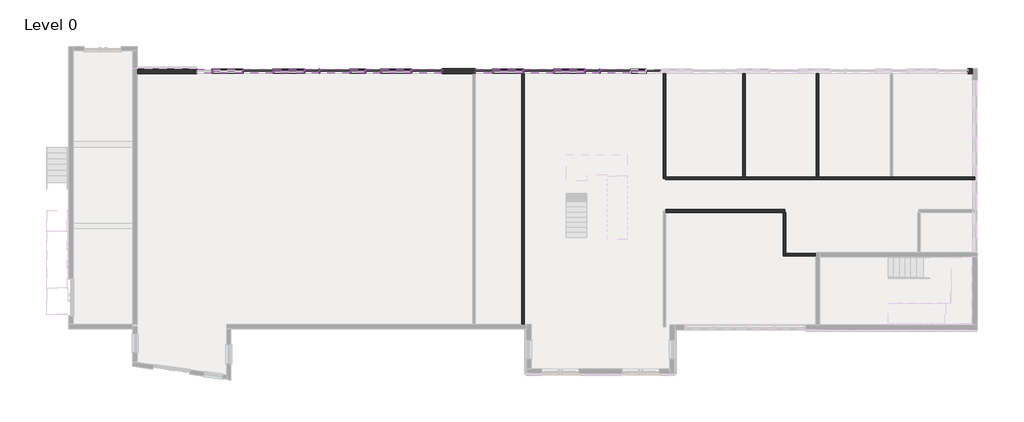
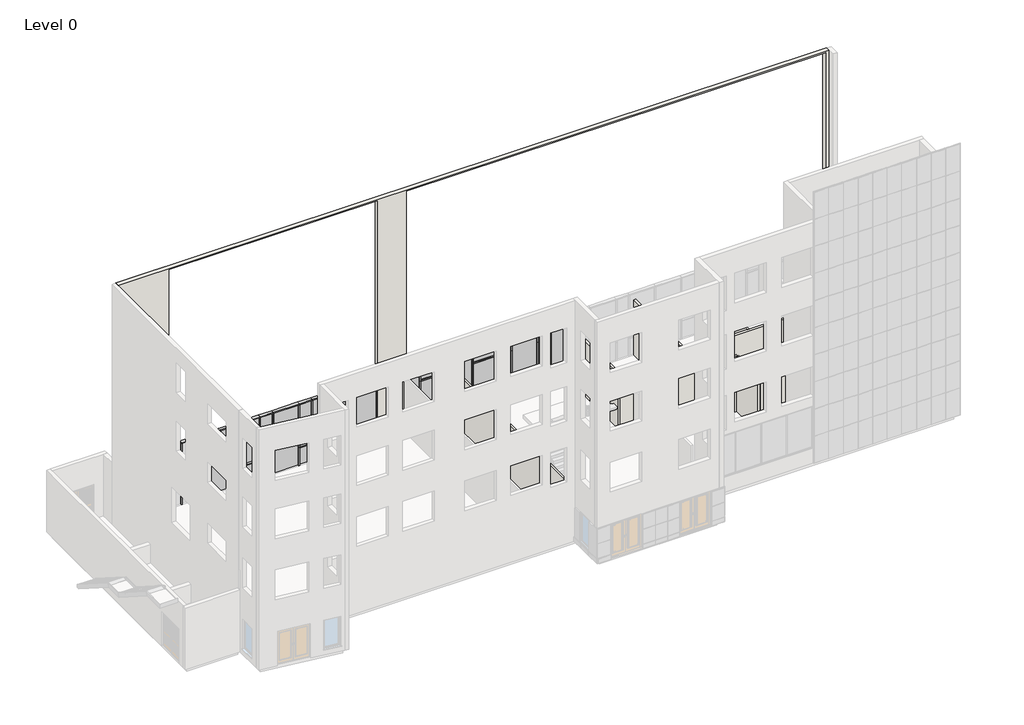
# One storey, part 6 of 10: 81 members, 29 plates, 9 walls.
"""IFC4 building model written with IfcOpenShell, lengths in millimetres."""

from ifc_helpers import new_model, si_unit, origin, origin_with_axes, place, context, project, spatial, polyline, outline, extrude, faceted_brep, transform, mapped, element, save
from components import rectangular_mullion_50x180mm_27940352, rectangular_mullion_50x180mm_f781141c, rectangular_mullion_50x180mm_fd91253e, rectangular_mullion_50x180mm_cfc9efda, rectangular_mullion_50x180mm_c30fec06, rectangular_mullion_50x180mm_55b63a96, rectangular_mullion_50x180mm_95299f7d, rectangular_mullion_50x180mm_7153291d, rectangular_mullion_50x180mm_44ee472d, rectangular_mullion_50x180mm_f19e9633, rectangular_mullion_50x180mm_b6846536, system_panel_black_panel_9e4711d2, system_panel_black_panel_f1dc39a6, system_panel_dark_grey_panel_d75652f0, system_panel_dark_grey_panel_1d6e0621, system_panel_glazed_dd63f223, system_panel_glazed_4915e1a0, system_panel_white_panel_6a64f577, system_panel_white_panel_a9ca731a, system_panel_white_panel_6c6c8c82, system_panel_white_panel_ff540c20

model = new_model("IFC4")

# Units and contexts
model_context = context("Model", 3, world=origin())
ifc_project = project(units=[si_unit("LENGTHUNIT", "METRE", prefix="MILLI")], contexts=[model_context])

# Site, building, storey
site = spatial("IfcSite", under=ifc_project)
building = spatial("IfcBuilding", under=site)
storey = spatial("IfcBuildingStorey", under=building, Name="Level 0", Elevation=0.0)

# Members
placement = place(None, origin())
rectangular_mullion_50x180mm_shape = rectangular_mullion_50x180mm_27940352(model_context)
element("IfcMember", 1, ObjectType="Rectangular Mullion : 50x180mm", at=placement, inside=storey, context=model_context, shape_type="MappedRepresentation", body=[
    mapped(rectangular_mullion_50x180mm_shape, transform((23443.2942367, 9132.4946591, 0.0), x_axis=(1.0, 0.0, 0.0), y_axis=(0.0, -1.0, 0.0), z_axis=(0.0, 0.0, -1.0))),
])
element("IfcMember", 2, ObjectType="Rectangular Mullion : 50x180mm", at=placement, inside=storey, context=model_context, shape_type="MappedRepresentation", body=[
    mapped(rectangular_mullion_50x180mm_shape, transform((22693.2942367, 9132.4946591, 0.0), x_axis=(1.0, 0.0, 0.0), y_axis=(0.0, -1.0, 0.0), z_axis=(0.0, 0.0, -1.0))),
])
element("IfcMember", 3, ObjectType="Rectangular Mullion : 50x180mm", at=placement, inside=storey, context=model_context, shape_type="MappedRepresentation", body=[
    mapped(rectangular_mullion_50x180mm_shape, transform((20443.2942367, 9132.4946591, 0.0), x_axis=(1.0, 0.0, 0.0), y_axis=(0.0, -1.0, 0.0), z_axis=(0.0, 0.0, -1.0))),
])
element("IfcMember", 4, ObjectType="Rectangular Mullion : 50x180mm", at=placement, inside=storey, context=model_context, shape_type="MappedRepresentation", body=[
    mapped(rectangular_mullion_50x180mm_shape, transform((18943.2942367, 9132.4946591, 0.0), x_axis=(1.0, 0.0, 0.0), y_axis=(0.0, -1.0, 0.0), z_axis=(0.0, 0.0, -1.0))),
])
element("IfcMember", 5, ObjectType="Rectangular Mullion : 50x180mm", at=placement, inside=storey, context=model_context, shape_type="MappedRepresentation", body=[
    mapped(rectangular_mullion_50x180mm_shape, transform((15943.2942367, 9132.4946591, 0.0), x_axis=(1.0, 0.0, 0.0), y_axis=(0.0, -1.0, 0.0), z_axis=(0.0, 0.0, -1.0))),
])
element("IfcMember", 6, ObjectType="Rectangular Mullion : 50x180mm", at=placement, inside=storey, context=model_context, shape_type="MappedRepresentation", body=[
    mapped(rectangular_mullion_50x180mm_shape, transform((17443.2942367, 9132.4946591, 0.0), x_axis=(1.0, 0.0, 0.0), y_axis=(0.0, -1.0, 0.0), z_axis=(0.0, 0.0, -1.0))),
])
element("IfcMember", 7, ObjectType="Rectangular Mullion : 50x180mm", at=placement, inside=storey, context=model_context, shape_type="MappedRepresentation", body=[
    mapped(rectangular_mullion_50x180mm_shape, transform((11980.7942367, 9132.4946591, 0.0), x_axis=(1.0, 0.0, 0.0), y_axis=(0.0, -1.0, 0.0), z_axis=(0.0, 0.0, -1.0))),
])
element("IfcMember", 8, ObjectType="Rectangular Mullion : 50x180mm", at=placement, inside=storey, context=model_context, shape_type="MappedRepresentation", body=[
    mapped(rectangular_mullion_50x180mm_shape, transform((10480.7942367, 9132.4946591, 0.0), x_axis=(1.0, 0.0, 0.0), y_axis=(0.0, -1.0, 0.0), z_axis=(0.0, 0.0, -1.0))),
])
element("IfcMember", 9, ObjectType="Rectangular Mullion : 50x180mm", at=placement, inside=storey, context=model_context, shape_type="MappedRepresentation", body=[
    mapped(rectangular_mullion_50x180mm_shape, transform((9730.7942367, 9132.4946591, 0.0), x_axis=(1.0, 0.0, 0.0), y_axis=(0.0, -1.0, 0.0), z_axis=(0.0, 0.0, -1.0))),
])
element("IfcMember", 10, ObjectType="Rectangular Mullion : 50x180mm", at=placement, inside=storey, context=model_context, shape_type="MappedRepresentation", body=[
    mapped(rectangular_mullion_50x180mm_shape, transform((8980.7942367, 9132.4946591, 0.0), x_axis=(1.0, 0.0, 0.0), y_axis=(0.0, -1.0, 0.0), z_axis=(0.0, 0.0, -1.0))),
])
element("IfcMember", 11, ObjectType="Rectangular Mullion : 50x180mm", at=placement, inside=storey, context=model_context, shape_type="MappedRepresentation", body=[
    mapped(rectangular_mullion_50x180mm_shape, transform((6730.7942367, 9132.4946591, 0.0), x_axis=(1.0, 0.0, 0.0), y_axis=(0.0, -1.0, 0.0), z_axis=(0.0, 0.0, -1.0))),
])
element("IfcMember", 12, ObjectType="Rectangular Mullion : 50x180mm", at=placement, inside=storey, context=model_context, shape_type="MappedRepresentation", body=[
    mapped(rectangular_mullion_50x180mm_shape, transform((5230.7942367, 9132.4946591, 0.0), x_axis=(1.0, 0.0, 0.0), y_axis=(0.0, -1.0, 0.0), z_axis=(0.0, 0.0, -1.0))),
])
element("IfcMember", 13, ObjectType="Rectangular Mullion : 50x180mm", at=placement, inside=storey, context=model_context, shape_type="MappedRepresentation", body=[
    mapped(rectangular_mullion_50x180mm_shape, transform((2230.7942367, 9132.4946591, 0.0), x_axis=(1.0, 0.0, 0.0), y_axis=(0.0, -1.0, 0.0), z_axis=(0.0, 0.0, -1.0))),
])
element("IfcMember", 14, ObjectType="Rectangular Mullion : 50x180mm", at=placement, inside=storey, context=model_context, shape_type="MappedRepresentation", body=[
    mapped(rectangular_mullion_50x180mm_shape, transform((3730.7942367, 9132.4946591, 0.0), x_axis=(1.0, 0.0, 0.0), y_axis=(0.0, -1.0, 0.0), z_axis=(0.0, 0.0, -1.0))),
])
element("IfcMember", 15, ObjectType="Rectangular Mullion : 50x180mm", at=placement, inside=storey, context=model_context, shape_type="MappedRepresentation", body=[
    mapped(rectangular_mullion_50x180mm_shape, transform((21193.2942367, 9132.4946591, 0.0), x_axis=(1.0, 0.0, 0.0), y_axis=(0.0, -1.0, 0.0), z_axis=(0.0, 0.0, -1.0))),
])
element("IfcMember", 16, ObjectType="Rectangular Mullion : 50x180mm", at=placement, inside=storey, context=model_context, shape_type="MappedRepresentation", body=[
    mapped(rectangular_mullion_50x180mm_shape, transform((7480.7942367, 9132.4946591, 0.0), x_axis=(1.0, 0.0, 0.0), y_axis=(0.0, -1.0, 0.0), z_axis=(0.0, 0.0, -1.0))),
])
rectangular_mullion_50x180mm_2_shape = rectangular_mullion_50x180mm_f781141c(model_context)
element("IfcMember", 17, ObjectType="Rectangular Mullion : 50x180mm", at=placement, inside=storey, context=model_context, shape_type="MappedRepresentation", body=[
    mapped(rectangular_mullion_50x180mm_2_shape, transform((15943.2942367, 9132.4946591, 1100.0), x_axis=(1.0, 0.0, 0.0), y_axis=(0.0, -1.0, 0.0), z_axis=(0.0, 0.0, -1.0))),
])
element("IfcMember", 18, ObjectType="Rectangular Mullion : 50x180mm", at=placement, inside=storey, context=model_context, shape_type="MappedRepresentation", body=[
    mapped(rectangular_mullion_50x180mm_2_shape, transform((17443.2942367, 9132.4946591, 1100.0), x_axis=(1.0, 0.0, 0.0), y_axis=(0.0, -1.0, 0.0), z_axis=(0.0, 0.0, -1.0))),
])
element("IfcMember", 19, ObjectType="Rectangular Mullion : 50x180mm", at=placement, inside=storey, context=model_context, shape_type="MappedRepresentation", body=[
    mapped(rectangular_mullion_50x180mm_2_shape, transform((18943.2942367, 9132.4946591, 1100.0), x_axis=(1.0, 0.0, 0.0), y_axis=(0.0, -1.0, 0.0), z_axis=(0.0, 0.0, -1.0))),
])
element("IfcMember", 20, ObjectType="Rectangular Mullion : 50x180mm", at=placement, inside=storey, context=model_context, shape_type="MappedRepresentation", body=[
    mapped(rectangular_mullion_50x180mm_2_shape, transform((20443.2942367, 9132.4946591, 1100.0), x_axis=(1.0, 0.0, 0.0), y_axis=(0.0, -1.0, 0.0), z_axis=(0.0, 0.0, -1.0))),
])
element("IfcMember", 21, ObjectType="Rectangular Mullion : 50x180mm", at=placement, inside=storey, context=model_context, shape_type="MappedRepresentation", body=[
    mapped(rectangular_mullion_50x180mm_2_shape, transform((22693.2942367, 9132.4946591, 1100.0), x_axis=(1.0, 0.0, 0.0), y_axis=(0.0, -1.0, 0.0), z_axis=(0.0, 0.0, -1.0))),
])
element("IfcMember", 22, ObjectType="Rectangular Mullion : 50x180mm", at=placement, inside=storey, context=model_context, shape_type="MappedRepresentation", body=[
    mapped(rectangular_mullion_50x180mm_2_shape, transform((23443.2942367, 9132.4946591, 1100.0), x_axis=(1.0, 0.0, 0.0), y_axis=(0.0, -1.0, 0.0), z_axis=(0.0, 0.0, -1.0))),
])
element("IfcMember", 23, ObjectType="Rectangular Mullion : 50x180mm", at=placement, inside=storey, context=model_context, shape_type="MappedRepresentation", body=[
    mapped(rectangular_mullion_50x180mm_2_shape, transform((2230.7942367, 9132.4946591, 1100.0), x_axis=(1.0, 0.0, 0.0), y_axis=(0.0, -1.0, 0.0), z_axis=(0.0, 0.0, -1.0))),
])
element("IfcMember", 24, ObjectType="Rectangular Mullion : 50x180mm", at=placement, inside=storey, context=model_context, shape_type="MappedRepresentation", body=[
    mapped(rectangular_mullion_50x180mm_2_shape, transform((3730.7942367, 9132.4946591, 1100.0), x_axis=(1.0, 0.0, 0.0), y_axis=(0.0, -1.0, 0.0), z_axis=(0.0, 0.0, -1.0))),
])
element("IfcMember", 25, ObjectType="Rectangular Mullion : 50x180mm", at=placement, inside=storey, context=model_context, shape_type="MappedRepresentation", body=[
    mapped(rectangular_mullion_50x180mm_2_shape, transform((5230.7942367, 9132.4946591, 1100.0), x_axis=(1.0, 0.0, 0.0), y_axis=(0.0, -1.0, 0.0), z_axis=(0.0, 0.0, -1.0))),
])
element("IfcMember", 26, ObjectType="Rectangular Mullion : 50x180mm", at=placement, inside=storey, context=model_context, shape_type="MappedRepresentation", body=[
    mapped(rectangular_mullion_50x180mm_2_shape, transform((6730.7942367, 9132.4946591, 1100.0), x_axis=(1.0, 0.0, 0.0), y_axis=(0.0, -1.0, 0.0), z_axis=(0.0, 0.0, -1.0))),
])
element("IfcMember", 27, ObjectType="Rectangular Mullion : 50x180mm", at=placement, inside=storey, context=model_context, shape_type="MappedRepresentation", body=[
    mapped(rectangular_mullion_50x180mm_2_shape, transform((8980.7942367, 9132.4946591, 1100.0), x_axis=(1.0, 0.0, 0.0), y_axis=(0.0, -1.0, 0.0), z_axis=(0.0, 0.0, -1.0))),
])
element("IfcMember", 28, ObjectType="Rectangular Mullion : 50x180mm", at=placement, inside=storey, context=model_context, shape_type="MappedRepresentation", body=[
    mapped(rectangular_mullion_50x180mm_2_shape, transform((9730.7942367, 9132.4946591, 1100.0), x_axis=(1.0, 0.0, 0.0), y_axis=(0.0, -1.0, 0.0), z_axis=(0.0, 0.0, -1.0))),
])
element("IfcMember", 29, ObjectType="Rectangular Mullion : 50x180mm", at=placement, inside=storey, context=model_context, shape_type="MappedRepresentation", body=[
    mapped(rectangular_mullion_50x180mm_2_shape, transform((10480.7942367, 9132.4946591, 1100.0), x_axis=(1.0, 0.0, 0.0), y_axis=(0.0, -1.0, 0.0), z_axis=(0.0, 0.0, -1.0))),
])
element("IfcMember", 30, ObjectType="Rectangular Mullion : 50x180mm", at=placement, inside=storey, context=model_context, shape_type="MappedRepresentation", body=[
    mapped(rectangular_mullion_50x180mm_2_shape, transform((11980.7942367, 9132.4946591, 1100.0), x_axis=(1.0, 0.0, 0.0), y_axis=(0.0, -1.0, 0.0), z_axis=(0.0, 0.0, -1.0))),
])
element("IfcMember", 31, ObjectType="Rectangular Mullion : 50x180mm", at=placement, inside=storey, context=model_context, shape_type="MappedRepresentation", body=[
    mapped(rectangular_mullion_50x180mm_2_shape, transform((21193.2942367, 9132.4946591, 1100.0), x_axis=(1.0, 0.0, 0.0), y_axis=(0.0, -1.0, 0.0), z_axis=(0.0, 0.0, -1.0))),
])
element("IfcMember", 32, ObjectType="Rectangular Mullion : 50x180mm", at=placement, inside=storey, context=model_context, shape_type="MappedRepresentation", body=[
    mapped(rectangular_mullion_50x180mm_2_shape, transform((7480.7942367, 9132.4946591, 1100.0), x_axis=(1.0, 0.0, 0.0), y_axis=(0.0, -1.0, 0.0), z_axis=(0.0, 0.0, -1.0))),
])
rectangular_mullion_50x180mm_3_shape = rectangular_mullion_50x180mm_fd91253e(model_context)
element("IfcMember", 33, ObjectType="Rectangular Mullion : 50x180mm", at=placement, inside=storey, context=model_context, shape_type="MappedRepresentation", body=[
    mapped(rectangular_mullion_50x180mm_3_shape, transform((17418.2942367, 9132.4946591, 1100.0), x_axis=(0.0, 0.0, 1.0), y_axis=(0.0, -1.0, 0.0), z_axis=(1.0, 0.0, 0.0))),
])
element("IfcMember", 34, ObjectType="Rectangular Mullion : 50x180mm", at=placement, inside=storey, context=model_context, shape_type="MappedRepresentation", body=[
    mapped(rectangular_mullion_50x180mm_3_shape, transform((20418.2942367, 9132.4946591, 1100.0), x_axis=(0.0, 0.0, 1.0), y_axis=(0.0, -1.0, 0.0), z_axis=(1.0, 0.0, 0.0))),
])
element("IfcMember", 35, ObjectType="Rectangular Mullion : 50x180mm", at=placement, inside=storey, context=model_context, shape_type="MappedRepresentation", body=[
    mapped(rectangular_mullion_50x180mm_3_shape, transform((17418.2942367, 9132.4946591, 2700.0), x_axis=(0.0, 0.0, 1.0), y_axis=(0.0, -1.0, 0.0), z_axis=(1.0, 0.0, 0.0))),
])
element("IfcMember", 36, ObjectType="Rectangular Mullion : 50x180mm", at=placement, inside=storey, context=model_context, shape_type="MappedRepresentation", body=[
    mapped(rectangular_mullion_50x180mm_3_shape, transform((20418.2942367, 9132.4946591, 2700.0), x_axis=(0.0, 0.0, 1.0), y_axis=(0.0, -1.0, 0.0), z_axis=(1.0, 0.0, 0.0))),
])
element("IfcMember", 37, ObjectType="Rectangular Mullion : 50x180mm", at=placement, inside=storey, context=model_context, shape_type="MappedRepresentation", body=[
    mapped(rectangular_mullion_50x180mm_3_shape, transform((11955.7942367, 9132.4946591, 1100.0), x_axis=(0.0, 0.0, 1.0), y_axis=(0.0, -1.0, 0.0), z_axis=(1.0, 0.0, 0.0))),
])
element("IfcMember", 38, ObjectType="Rectangular Mullion : 50x180mm", at=placement, inside=storey, context=model_context, shape_type="MappedRepresentation", body=[
    mapped(rectangular_mullion_50x180mm_3_shape, transform((11955.7942367, 9132.4946591, 2700.0), x_axis=(0.0, 0.0, 1.0), y_axis=(0.0, -1.0, 0.0), z_axis=(1.0, 0.0, 0.0))),
])
element("IfcMember", 39, ObjectType="Rectangular Mullion : 50x180mm", at=placement, inside=storey, context=model_context, shape_type="MappedRepresentation", body=[
    mapped(rectangular_mullion_50x180mm_3_shape, transform((3705.7942367, 9132.4946591, 1100.0), x_axis=(0.0, 0.0, 1.0), y_axis=(0.0, -1.0, 0.0), z_axis=(1.0, 0.0, 0.0))),
])
element("IfcMember", 40, ObjectType="Rectangular Mullion : 50x180mm", at=placement, inside=storey, context=model_context, shape_type="MappedRepresentation", body=[
    mapped(rectangular_mullion_50x180mm_3_shape, transform((6705.7942367, 9132.4946591, 1100.0), x_axis=(0.0, 0.0, 1.0), y_axis=(0.0, -1.0, 0.0), z_axis=(1.0, 0.0, 0.0))),
])
element("IfcMember", 41, ObjectType="Rectangular Mullion : 50x180mm", at=placement, inside=storey, context=model_context, shape_type="MappedRepresentation", body=[
    mapped(rectangular_mullion_50x180mm_3_shape, transform((3705.7942367, 9132.4946591, 2700.0), x_axis=(0.0, 0.0, 1.0), y_axis=(0.0, -1.0, 0.0), z_axis=(1.0, 0.0, 0.0))),
])
element("IfcMember", 42, ObjectType="Rectangular Mullion : 50x180mm", at=placement, inside=storey, context=model_context, shape_type="MappedRepresentation", body=[
    mapped(rectangular_mullion_50x180mm_3_shape, transform((6705.7942367, 9132.4946591, 2700.0), x_axis=(0.0, 0.0, 1.0), y_axis=(0.0, -1.0, 0.0), z_axis=(1.0, 0.0, 0.0))),
])
rectangular_mullion_50x180mm_4_shape = rectangular_mullion_50x180mm_cfc9efda(model_context)
element("IfcMember", 43, ObjectType="Rectangular Mullion : 50x180mm", at=placement, inside=storey, context=model_context, shape_type="MappedRepresentation", body=[
    mapped(rectangular_mullion_50x180mm_4_shape, transform((23418.2942367, 9132.4946591, 2700.0), x_axis=(0.0, 0.0, 1.0), y_axis=(0.0, -1.0, 0.0), z_axis=(1.0, 0.0, 0.0))),
])
element("IfcMember", 44, ObjectType="Rectangular Mullion : 50x180mm", at=placement, inside=storey, context=model_context, shape_type="MappedRepresentation", body=[
    mapped(rectangular_mullion_50x180mm_4_shape, transform((23418.2942367, 9132.4946591, 1100.0), x_axis=(0.0, 0.0, 1.0), y_axis=(0.0, -1.0, 0.0), z_axis=(1.0, 0.0, 0.0))),
])
element("IfcMember", 45, ObjectType="Rectangular Mullion : 50x180mm", at=placement, inside=storey, context=model_context, shape_type="MappedRepresentation", body=[
    mapped(rectangular_mullion_50x180mm_4_shape, transform((9705.7942367, 9132.4946591, 2700.0), x_axis=(0.0, 0.0, 1.0), y_axis=(0.0, -1.0, 0.0), z_axis=(1.0, 0.0, 0.0))),
])
element("IfcMember", 46, ObjectType="Rectangular Mullion : 50x180mm", at=placement, inside=storey, context=model_context, shape_type="MappedRepresentation", body=[
    mapped(rectangular_mullion_50x180mm_4_shape, transform((9705.7942367, 9132.4946591, 1100.0), x_axis=(0.0, 0.0, 1.0), y_axis=(0.0, -1.0, 0.0), z_axis=(1.0, 0.0, 0.0))),
])
rectangular_mullion_50x180mm_5_shape = rectangular_mullion_50x180mm_c30fec06(model_context)
element("IfcMember", 47, ObjectType="Rectangular Mullion : 50x180mm", at=placement, inside=storey, context=model_context, shape_type="MappedRepresentation", body=[
    mapped(rectangular_mullion_50x180mm_5_shape, transform((17443.2942367, 9132.4946591, 3750.0), x_axis=(0.0, 0.0, 1.0), y_axis=(0.0, -1.0, 0.0), z_axis=(1.0, 0.0, 0.0))),
])
element("IfcMember", 48, ObjectType="Rectangular Mullion : 50x180mm", at=placement, inside=storey, context=model_context, shape_type="MappedRepresentation", body=[
    mapped(rectangular_mullion_50x180mm_5_shape, transform((18943.2942367, 9132.4946591, 3750.0), x_axis=(0.0, 0.0, 1.0), y_axis=(0.0, -1.0, 0.0), z_axis=(1.0, 0.0, 0.0))),
])
element("IfcMember", 49, ObjectType="Rectangular Mullion : 50x180mm", at=placement, inside=storey, context=model_context, shape_type="MappedRepresentation", body=[
    mapped(rectangular_mullion_50x180mm_5_shape, transform((20443.2942367, 9132.4946591, 3750.0), x_axis=(0.0, 0.0, 1.0), y_axis=(0.0, -1.0, 0.0), z_axis=(1.0, 0.0, 0.0))),
])
element("IfcMember", 50, ObjectType="Rectangular Mullion : 50x180mm", at=placement, inside=storey, context=model_context, shape_type="MappedRepresentation", body=[
    mapped(rectangular_mullion_50x180mm_5_shape, transform((22693.2942367, 9132.4946591, 3750.0), x_axis=(0.0, 0.0, 1.0), y_axis=(0.0, -1.0, 0.0), z_axis=(1.0, 0.0, 0.0))),
])
element("IfcMember", 51, ObjectType="Rectangular Mullion : 50x180mm", at=placement, inside=storey, context=model_context, shape_type="MappedRepresentation", body=[
    mapped(rectangular_mullion_50x180mm_5_shape, transform((3730.7942367, 9132.4946591, 3750.0), x_axis=(0.0, 0.0, 1.0), y_axis=(0.0, -1.0, 0.0), z_axis=(1.0, 0.0, 0.0))),
])
element("IfcMember", 52, ObjectType="Rectangular Mullion : 50x180mm", at=placement, inside=storey, context=model_context, shape_type="MappedRepresentation", body=[
    mapped(rectangular_mullion_50x180mm_5_shape, transform((5230.7942367, 9132.4946591, 3750.0), x_axis=(0.0, 0.0, 1.0), y_axis=(0.0, -1.0, 0.0), z_axis=(1.0, 0.0, 0.0))),
])
element("IfcMember", 53, ObjectType="Rectangular Mullion : 50x180mm", at=placement, inside=storey, context=model_context, shape_type="MappedRepresentation", body=[
    mapped(rectangular_mullion_50x180mm_5_shape, transform((6730.7942367, 9132.4946591, 3750.0), x_axis=(0.0, 0.0, 1.0), y_axis=(0.0, -1.0, 0.0), z_axis=(1.0, 0.0, 0.0))),
])
element("IfcMember", 54, ObjectType="Rectangular Mullion : 50x180mm", at=placement, inside=storey, context=model_context, shape_type="MappedRepresentation", body=[
    mapped(rectangular_mullion_50x180mm_5_shape, transform((8980.7942367, 9132.4946591, 3750.0), x_axis=(0.0, 0.0, 1.0), y_axis=(0.0, -1.0, 0.0), z_axis=(1.0, 0.0, 0.0))),
])
element("IfcMember", 55, ObjectType="Rectangular Mullion : 50x180mm", at=placement, inside=storey, context=model_context, shape_type="MappedRepresentation", body=[
    mapped(rectangular_mullion_50x180mm_5_shape, transform((11980.7942367, 9132.4946591, 3750.0), x_axis=(0.0, 0.0, 1.0), y_axis=(0.0, -1.0, 0.0), z_axis=(1.0, 0.0, 0.0))),
])
rectangular_mullion_50x180mm_6_shape = rectangular_mullion_50x180mm_55b63a96(model_context)
element("IfcMember", 56, ObjectType="Rectangular Mullion : 50x180mm", at=placement, inside=storey, context=model_context, shape_type="MappedRepresentation", body=[
    mapped(rectangular_mullion_50x180mm_6_shape, transform((21193.2942367, 9132.4946591, 3750.0), x_axis=(0.0, 0.0, 1.0), y_axis=(0.0, -1.0, 0.0), z_axis=(1.0, 0.0, 0.0))),
])
element("IfcMember", 57, ObjectType="Rectangular Mullion : 50x180mm", at=placement, inside=storey, context=model_context, shape_type="MappedRepresentation", body=[
    mapped(rectangular_mullion_50x180mm_6_shape, transform((7480.7942367, 9132.4946591, 3750.0), x_axis=(0.0, 0.0, 1.0), y_axis=(0.0, -1.0, 0.0), z_axis=(1.0, 0.0, 0.0))),
])
element("IfcMember", 58, ObjectType="Rectangular Mullion : 50x180mm", at=placement, inside=storey, context=model_context, shape_type="MappedRepresentation", body=[
    mapped(rectangular_mullion_50x180mm_6_shape, transform((9730.7942367, 9132.4946591, 3750.0), x_axis=(0.0, 0.0, 1.0), y_axis=(0.0, -1.0, 0.0), z_axis=(1.0, 0.0, 0.0))),
])
element("IfcMember", 59, ObjectType="Rectangular Mullion : 50x180mm", at=placement, inside=storey, context=model_context, shape_type="MappedRepresentation", body=[
    mapped(rectangular_mullion_50x180mm_6_shape, transform((10480.7942367, 9132.4946591, 3750.0), x_axis=(0.0, 0.0, 1.0), y_axis=(0.0, -1.0, 0.0), z_axis=(1.0, 0.0, 0.0))),
])
element("IfcMember", 60, ObjectType="Rectangular Mullion : 50x180mm", at=placement, inside=storey, context=model_context, shape_type="MappedRepresentation", body=[
    mapped(rectangular_mullion_50x180mm_5_shape, transform((13480.7942367, 9132.4946591, 3750.0), x_axis=(0.0, 0.0, 1.0), y_axis=(0.0, -1.0, 0.0), z_axis=(1.0, 0.0, 0.0))),
])
rectangular_mullion_50x180mm_7_shape = rectangular_mullion_50x180mm_95299f7d(model_context)
element("IfcMember", 61, ObjectType="Rectangular Mullion : 50x180mm", at=placement, inside=storey, context=model_context, shape_type="MappedRepresentation", body=[
    mapped(rectangular_mullion_50x180mm_7_shape, transform((13480.7942367, 9132.4946591, 1100.0), x_axis=(1.0, 0.0, 0.0), y_axis=(0.0, -1.0, 0.0), z_axis=(0.0, 0.0, -1.0))),
])
rectangular_mullion_50x180mm_8_shape = rectangular_mullion_50x180mm_7153291d(model_context)
element("IfcMember", 62, ObjectType="Rectangular Mullion : 50x180mm", at=placement, inside=storey, context=model_context, shape_type="MappedRepresentation", body=[
    mapped(rectangular_mullion_50x180mm_8_shape, transform((13480.7942367, 9132.4946591, 0.0), x_axis=(1.0, 0.0, 0.0), y_axis=(0.0, -1.0, 0.0), z_axis=(0.0, 0.0, -1.0))),
])
rectangular_mullion_50x180mm_9_shape = rectangular_mullion_50x180mm_44ee472d(model_context)
element("IfcMember", 63, ObjectType="Rectangular Mullion : 50x180mm", at=placement, inside=storey, context=model_context, shape_type="MappedRepresentation", body=[
    mapped(rectangular_mullion_50x180mm_9_shape, transform((15943.2942367, 9132.4946591, 3750.0), x_axis=(0.0, 0.0, 1.0), y_axis=(0.0, -1.0, 0.0), z_axis=(1.0, 0.0, 0.0))),
])
element("IfcMember", 64, ObjectType="Rectangular Mullion : 50x180mm", at=placement, inside=storey, context=model_context, shape_type="MappedRepresentation", body=[
    mapped(rectangular_mullion_50x180mm_6_shape, transform((2230.7942367, 9132.4946591, 3750.0), x_axis=(0.0, 0.0, 1.0), y_axis=(0.0, -1.0, 0.0), z_axis=(1.0, 0.0, 0.0))),
])
rectangular_mullion_50x180mm_10_shape = rectangular_mullion_50x180mm_f19e9633(model_context)
element("IfcMember", 65, ObjectType="Rectangular Mullion : 50x180mm", at=placement, inside=storey, context=model_context, shape_type="MappedRepresentation", body=[
    mapped(rectangular_mullion_50x180mm_10_shape, transform((22693.2942367, 9132.4946591, 2700.0), x_axis=(1.0, 0.0, 0.0), y_axis=(0.0, -1.0, 0.0), z_axis=(0.0, 0.0, -1.0))),
])
element("IfcMember", 66, ObjectType="Rectangular Mullion : 50x180mm", at=placement, inside=storey, context=model_context, shape_type="MappedRepresentation", body=[
    mapped(rectangular_mullion_50x180mm_10_shape, transform((23443.2942367, 9132.4946591, 2700.0), x_axis=(1.0, 0.0, 0.0), y_axis=(0.0, -1.0, 0.0), z_axis=(0.0, 0.0, -1.0))),
])
element("IfcMember", 67, ObjectType="Rectangular Mullion : 50x180mm", at=placement, inside=storey, context=model_context, shape_type="MappedRepresentation", body=[
    mapped(rectangular_mullion_50x180mm_10_shape, transform((20443.2942367, 9132.4946591, 2700.0), x_axis=(1.0, 0.0, 0.0), y_axis=(0.0, -1.0, 0.0), z_axis=(0.0, 0.0, -1.0))),
])
element("IfcMember", 68, ObjectType="Rectangular Mullion : 50x180mm", at=placement, inside=storey, context=model_context, shape_type="MappedRepresentation", body=[
    mapped(rectangular_mullion_50x180mm_10_shape, transform((18943.2942367, 9132.4946591, 2700.0), x_axis=(1.0, 0.0, 0.0), y_axis=(0.0, -1.0, 0.0), z_axis=(0.0, 0.0, -1.0))),
])
element("IfcMember", 69, ObjectType="Rectangular Mullion : 50x180mm", at=placement, inside=storey, context=model_context, shape_type="MappedRepresentation", body=[
    mapped(rectangular_mullion_50x180mm_10_shape, transform((15943.2942367, 9132.4946591, 2700.0), x_axis=(1.0, 0.0, 0.0), y_axis=(0.0, -1.0, 0.0), z_axis=(0.0, 0.0, -1.0))),
])
element("IfcMember", 70, ObjectType="Rectangular Mullion : 50x180mm", at=placement, inside=storey, context=model_context, shape_type="MappedRepresentation", body=[
    mapped(rectangular_mullion_50x180mm_10_shape, transform((17443.2942367, 9132.4946591, 2700.0), x_axis=(1.0, 0.0, 0.0), y_axis=(0.0, -1.0, 0.0), z_axis=(0.0, 0.0, -1.0))),
])
element("IfcMember", 71, ObjectType="Rectangular Mullion : 50x180mm", at=placement, inside=storey, context=model_context, shape_type="MappedRepresentation", body=[
    mapped(rectangular_mullion_50x180mm_10_shape, transform((8980.7942367, 9132.4946591, 2700.0), x_axis=(1.0, 0.0, 0.0), y_axis=(0.0, -1.0, 0.0), z_axis=(0.0, 0.0, -1.0))),
])
element("IfcMember", 72, ObjectType="Rectangular Mullion : 50x180mm", at=placement, inside=storey, context=model_context, shape_type="MappedRepresentation", body=[
    mapped(rectangular_mullion_50x180mm_10_shape, transform((9730.7942367, 9132.4946591, 2700.0), x_axis=(1.0, 0.0, 0.0), y_axis=(0.0, -1.0, 0.0), z_axis=(0.0, 0.0, -1.0))),
])
element("IfcMember", 73, ObjectType="Rectangular Mullion : 50x180mm", at=placement, inside=storey, context=model_context, shape_type="MappedRepresentation", body=[
    mapped(rectangular_mullion_50x180mm_10_shape, transform((10480.7942367, 9132.4946591, 2700.0), x_axis=(1.0, 0.0, 0.0), y_axis=(0.0, -1.0, 0.0), z_axis=(0.0, 0.0, -1.0))),
])
element("IfcMember", 74, ObjectType="Rectangular Mullion : 50x180mm", at=placement, inside=storey, context=model_context, shape_type="MappedRepresentation", body=[
    mapped(rectangular_mullion_50x180mm_10_shape, transform((11980.7942367, 9132.4946591, 2700.0), x_axis=(1.0, 0.0, 0.0), y_axis=(0.0, -1.0, 0.0), z_axis=(0.0, 0.0, -1.0))),
])
element("IfcMember", 75, ObjectType="Rectangular Mullion : 50x180mm", at=placement, inside=storey, context=model_context, shape_type="MappedRepresentation", body=[
    mapped(rectangular_mullion_50x180mm_10_shape, transform((6730.7942367, 9132.4946591, 2700.0), x_axis=(1.0, 0.0, 0.0), y_axis=(0.0, -1.0, 0.0), z_axis=(0.0, 0.0, -1.0))),
])
element("IfcMember", 76, ObjectType="Rectangular Mullion : 50x180mm", at=placement, inside=storey, context=model_context, shape_type="MappedRepresentation", body=[
    mapped(rectangular_mullion_50x180mm_10_shape, transform((5230.7942367, 9132.4946591, 2700.0), x_axis=(1.0, 0.0, 0.0), y_axis=(0.0, -1.0, 0.0), z_axis=(0.0, 0.0, -1.0))),
])
element("IfcMember", 77, ObjectType="Rectangular Mullion : 50x180mm", at=placement, inside=storey, context=model_context, shape_type="MappedRepresentation", body=[
    mapped(rectangular_mullion_50x180mm_10_shape, transform((2230.7942367, 9132.4946591, 2700.0), x_axis=(1.0, 0.0, 0.0), y_axis=(0.0, -1.0, 0.0), z_axis=(0.0, 0.0, -1.0))),
])
element("IfcMember", 78, ObjectType="Rectangular Mullion : 50x180mm", at=placement, inside=storey, context=model_context, shape_type="MappedRepresentation", body=[
    mapped(rectangular_mullion_50x180mm_10_shape, transform((3730.7942367, 9132.4946591, 2700.0), x_axis=(1.0, 0.0, 0.0), y_axis=(0.0, -1.0, 0.0), z_axis=(0.0, 0.0, -1.0))),
])
element("IfcMember", 79, ObjectType="Rectangular Mullion : 50x180mm", at=placement, inside=storey, context=model_context, shape_type="MappedRepresentation", body=[
    mapped(rectangular_mullion_50x180mm_10_shape, transform((21193.2942367, 9132.4946591, 2700.0), x_axis=(1.0, 0.0, 0.0), y_axis=(0.0, -1.0, 0.0), z_axis=(0.0, 0.0, -1.0))),
])
element("IfcMember", 80, ObjectType="Rectangular Mullion : 50x180mm", at=placement, inside=storey, context=model_context, shape_type="MappedRepresentation", body=[
    mapped(rectangular_mullion_50x180mm_10_shape, transform((7480.7942367, 9132.4946591, 2700.0), x_axis=(1.0, 0.0, 0.0), y_axis=(0.0, -1.0, 0.0), z_axis=(0.0, 0.0, -1.0))),
])
rectangular_mullion_50x180mm_11_shape = rectangular_mullion_50x180mm_b6846536(model_context)
element("IfcMember", 81, ObjectType="Rectangular Mullion : 50x180mm", at=placement, inside=storey, context=model_context, shape_type="MappedRepresentation", body=[
    mapped(rectangular_mullion_50x180mm_11_shape, transform((13480.7942367, 9132.4946591, 2700.0), x_axis=(1.0, 0.0, 0.0), y_axis=(0.0, -1.0, 0.0), z_axis=(0.0, 0.0, -1.0))),
])

# Plates
system_panel_black_panel_shape = system_panel_black_panel_9e4711d2(model_context)
element("IfcPlate", 82, ObjectType="System Panel : Black-Panel", at=placement, inside=storey, context=model_context, shape_type="MappedRepresentation", body=[
    mapped(system_panel_black_panel_shape, transform((23818.2942367, 9132.4946591, 0.0), x_axis=(1.0, 0.0, 0.0), y_axis=(0.0, 1.0, 0.0), z_axis=(0.0, 0.0, 1.0))),
])
element("IfcPlate", 83, ObjectType="System Panel : Black-Panel", at=placement, inside=storey, context=model_context, shape_type="MappedRepresentation", body=[
    mapped(system_panel_black_panel_shape, transform((20818.2942367, 9132.4946591, 0.0), x_axis=(1.0, 0.0, 0.0), y_axis=(0.0, 1.0, 0.0), z_axis=(0.0, 0.0, 1.0))),
])
element("IfcPlate", 84, ObjectType="System Panel : Black-Panel", at=placement, inside=storey, context=model_context, shape_type="MappedRepresentation", body=[
    mapped(system_panel_black_panel_shape, transform((10105.7942367, 9132.4946591, 0.0), x_axis=(1.0, 0.0, 0.0), y_axis=(0.0, 1.0, 0.0), z_axis=(0.0, 0.0, 1.0))),
])
element("IfcPlate", 85, ObjectType="System Panel : Black-Panel", at=placement, inside=storey, context=model_context, shape_type="MappedRepresentation", body=[
    mapped(system_panel_black_panel_shape, transform((7105.7942367, 9132.4946591, 0.0), x_axis=(1.0, 0.0, 0.0), y_axis=(0.0, 1.0, 0.0), z_axis=(0.0, 0.0, 1.0))),
])
system_panel_black_panel_2_shape = system_panel_black_panel_f1dc39a6(model_context)
element("IfcPlate", 86, ObjectType="System Panel : Black-Panel", at=placement, inside=storey, context=model_context, shape_type="MappedRepresentation", body=[
    mapped(system_panel_black_panel_2_shape, transform((15512.0442367, 9132.4946591, 0.0), x_axis=(1.0, 0.0, 0.0), y_axis=(0.0, 1.0, 0.0), z_axis=(0.0, 0.0, 1.0))),
])
system_panel_dark_grey_panel_shape = system_panel_dark_grey_panel_d75652f0(model_context)
element("IfcPlate", 87, ObjectType="System Panel : Dark Grey-Panel", at=placement, inside=storey, context=model_context, shape_type="MappedRepresentation", body=[
    mapped(system_panel_dark_grey_panel_shape, transform((12718.2942367, 9132.4946591, 0.0), x_axis=(1.0, 0.0, 0.0), y_axis=(0.0, 1.0, 0.0), z_axis=(0.0, 0.0, 1.0))),
])
system_panel_dark_grey_panel_2_shape = system_panel_dark_grey_panel_1d6e0621(model_context)
element("IfcPlate", 88, ObjectType="System Panel : Dark Grey-Panel", at=placement, inside=storey, context=model_context, shape_type="MappedRepresentation", body=[
    mapped(system_panel_dark_grey_panel_2_shape, transform((21943.2942367, 9132.4946591, 0.0), x_axis=(1.0, 0.0, 0.0), y_axis=(0.0, 1.0, 0.0), z_axis=(0.0, 0.0, 1.0))),
])
element("IfcPlate", 89, ObjectType="System Panel : Dark Grey-Panel", at=placement, inside=storey, context=model_context, shape_type="MappedRepresentation", body=[
    mapped(system_panel_dark_grey_panel_2_shape, transform((18193.2942367, 9132.4946591, 0.0), x_axis=(1.0, 0.0, 0.0), y_axis=(0.0, 1.0, 0.0), z_axis=(0.0, 0.0, 1.0))),
])
element("IfcPlate", 90, ObjectType="System Panel : Dark Grey-Panel", at=placement, inside=storey, context=model_context, shape_type="MappedRepresentation", body=[
    mapped(system_panel_dark_grey_panel_2_shape, transform((8230.7942367, 9132.4946591, 0.0), x_axis=(1.0, 0.0, 0.0), y_axis=(0.0, 1.0, 0.0), z_axis=(0.0, 0.0, 1.0))),
])
element("IfcPlate", 91, ObjectType="System Panel : Dark Grey-Panel", at=placement, inside=storey, context=model_context, shape_type="MappedRepresentation", body=[
    mapped(system_panel_dark_grey_panel_2_shape, transform((4480.7942367, 9132.4946591, 0.0), x_axis=(1.0, 0.0, 0.0), y_axis=(0.0, 1.0, 0.0), z_axis=(0.0, 0.0, 1.0))),
])
system_panel_glazed_shape = system_panel_glazed_dd63f223(model_context)
element("IfcPlate", 92, ObjectType="System Panel : Glazed", at=placement, inside=storey, context=model_context, shape_type="MappedRepresentation", body=[
    mapped(system_panel_glazed_shape, transform((23068.2942367, 9132.4946591, 1125.0), x_axis=(1.0, 0.0, 0.0), y_axis=(0.0, 1.0, 0.0), z_axis=(0.0, 0.0, 1.0))),
])
element("IfcPlate", 93, ObjectType="System Panel : Glazed", at=placement, inside=storey, context=model_context, shape_type="MappedRepresentation", body=[
    mapped(system_panel_glazed_shape, transform((9355.7942367, 9132.4946591, 1125.0), x_axis=(1.0, 0.0, 0.0), y_axis=(0.0, 1.0, 0.0), z_axis=(0.0, 0.0, 1.0))),
])
system_panel_glazed_2_shape = system_panel_glazed_4915e1a0(model_context)
element("IfcPlate", 94, ObjectType="System Panel : Glazed", at=placement, inside=storey, context=model_context, shape_type="MappedRepresentation", body=[
    mapped(system_panel_glazed_2_shape, transform((19693.2942367, 9132.4946591, 1125.0), x_axis=(1.0, 0.0, 0.0), y_axis=(0.0, 1.0, 0.0), z_axis=(0.0, 0.0, 1.0))),
])
element("IfcPlate", 95, ObjectType="System Panel : Glazed", at=placement, inside=storey, context=model_context, shape_type="MappedRepresentation", body=[
    mapped(system_panel_glazed_2_shape, transform((16693.2942367, 9132.4946591, 1125.0), x_axis=(1.0, 0.0, 0.0), y_axis=(0.0, 1.0, 0.0), z_axis=(0.0, 0.0, 1.0))),
])
element("IfcPlate", 96, ObjectType="System Panel : Glazed", at=placement, inside=storey, context=model_context, shape_type="MappedRepresentation", body=[
    mapped(system_panel_glazed_2_shape, transform((11230.7942367, 9132.4946591, 1125.0), x_axis=(1.0, 0.0, 0.0), y_axis=(0.0, 1.0, 0.0), z_axis=(0.0, 0.0, 1.0))),
])
element("IfcPlate", 97, ObjectType="System Panel : Glazed", at=placement, inside=storey, context=model_context, shape_type="MappedRepresentation", body=[
    mapped(system_panel_glazed_2_shape, transform((5980.7942367, 9132.4946591, 1125.0), x_axis=(1.0, 0.0, 0.0), y_axis=(0.0, 1.0, 0.0), z_axis=(0.0, 0.0, 1.0))),
])
element("IfcPlate", 98, ObjectType="System Panel : Glazed", at=placement, inside=storey, context=model_context, shape_type="MappedRepresentation", body=[
    mapped(system_panel_glazed_2_shape, transform((2980.7942367, 9132.4946591, 1125.0), x_axis=(1.0, 0.0, 0.0), y_axis=(0.0, 1.0, 0.0), z_axis=(0.0, 0.0, 1.0))),
])
system_panel_white_panel_shape = system_panel_white_panel_6a64f577(model_context)
element("IfcPlate", 99, ObjectType="System Panel : White-Panel", at=placement, inside=storey, context=model_context, shape_type="MappedRepresentation", body=[
    mapped(system_panel_white_panel_shape, transform((19693.2942367, 9132.4946591, 0.0), x_axis=(1.0, 0.0, 0.0), y_axis=(0.0, 1.0, 0.0), z_axis=(0.0, 0.0, 1.0))),
])
element("IfcPlate", 100, ObjectType="System Panel : White-Panel", at=placement, inside=storey, context=model_context, shape_type="MappedRepresentation", body=[
    mapped(system_panel_white_panel_shape, transform((16693.2942367, 9132.4946591, 0.0), x_axis=(1.0, 0.0, 0.0), y_axis=(0.0, 1.0, 0.0), z_axis=(0.0, 0.0, 1.0))),
])
element("IfcPlate", 101, ObjectType="System Panel : White-Panel", at=placement, inside=storey, context=model_context, shape_type="MappedRepresentation", body=[
    mapped(system_panel_white_panel_shape, transform((11230.7942367, 9132.4946591, 0.0), x_axis=(1.0, 0.0, 0.0), y_axis=(0.0, 1.0, 0.0), z_axis=(0.0, 0.0, 1.0))),
])
element("IfcPlate", 102, ObjectType="System Panel : White-Panel", at=placement, inside=storey, context=model_context, shape_type="MappedRepresentation", body=[
    mapped(system_panel_white_panel_shape, transform((5980.7942367, 9132.4946591, 0.0), x_axis=(1.0, 0.0, 0.0), y_axis=(0.0, 1.0, 0.0), z_axis=(0.0, 0.0, 1.0))),
])
system_panel_white_panel_2_shape = system_panel_white_panel_a9ca731a(model_context)
element("IfcPlate", 103, ObjectType="System Panel : White-Panel", at=placement, inside=storey, context=model_context, shape_type="MappedRepresentation", body=[
    mapped(system_panel_white_panel_2_shape, transform((23068.2942367, 9132.4946591, 0.0), x_axis=(1.0, 0.0, 0.0), y_axis=(0.0, 1.0, 0.0), z_axis=(0.0, 0.0, 1.0))),
])
element("IfcPlate", 104, ObjectType="System Panel : White-Panel", at=placement, inside=storey, context=model_context, shape_type="MappedRepresentation", body=[
    mapped(system_panel_white_panel_2_shape, transform((9355.7942367, 9132.4946591, 0.0), x_axis=(1.0, 0.0, 0.0), y_axis=(0.0, 1.0, 0.0), z_axis=(0.0, 0.0, 1.0))),
])
system_panel_white_panel_3_shape = system_panel_white_panel_6c6c8c82(model_context)
element("IfcPlate", 105, ObjectType="System Panel : White-Panel", at=placement, inside=storey, context=model_context, shape_type="MappedRepresentation", body=[
    mapped(system_panel_white_panel_3_shape, transform((23068.2942367, 9132.4946591, 2725.0), x_axis=(1.0, 0.0, 0.0), y_axis=(0.0, 1.0, 0.0), z_axis=(0.0, 0.0, 1.0))),
])
element("IfcPlate", 106, ObjectType="System Panel : White-Panel", at=placement, inside=storey, context=model_context, shape_type="MappedRepresentation", body=[
    mapped(system_panel_white_panel_3_shape, transform((9355.7942367, 9132.4946591, 2725.0), x_axis=(1.0, 0.0, 0.0), y_axis=(0.0, 1.0, 0.0), z_axis=(0.0, 0.0, 1.0))),
])
system_panel_white_panel_4_shape = system_panel_white_panel_ff540c20(model_context)
element("IfcPlate", 107, ObjectType="System Panel : White-Panel", at=placement, inside=storey, context=model_context, shape_type="MappedRepresentation", body=[
    mapped(system_panel_white_panel_4_shape, transform((19693.2942367, 9132.4946591, 2725.0), x_axis=(1.0, 0.0, 0.0), y_axis=(0.0, 1.0, 0.0), z_axis=(0.0, 0.0, 1.0))),
])
element("IfcPlate", 108, ObjectType="System Panel : White-Panel", at=placement, inside=storey, context=model_context, shape_type="MappedRepresentation", body=[
    mapped(system_panel_white_panel_4_shape, transform((16693.2942367, 9132.4946591, 2725.0), x_axis=(1.0, 0.0, 0.0), y_axis=(0.0, 1.0, 0.0), z_axis=(0.0, 0.0, 1.0))),
])
element("IfcPlate", 109, ObjectType="System Panel : White-Panel", at=placement, inside=storey, context=model_context, shape_type="MappedRepresentation", body=[
    mapped(system_panel_white_panel_4_shape, transform((11230.7942367, 9132.4946591, 2725.0), x_axis=(1.0, 0.0, 0.0), y_axis=(0.0, 1.0, 0.0), z_axis=(0.0, 0.0, 1.0))),
])
element("IfcPlate", 110, ObjectType="System Panel : White-Panel", at=placement, inside=storey, context=model_context, shape_type="MappedRepresentation", body=[
    mapped(system_panel_white_panel_4_shape, transform((5980.7942367, 9132.4946591, 2725.0), x_axis=(1.0, 0.0, 0.0), y_axis=(0.0, 1.0, 0.0), z_axis=(0.0, 0.0, 1.0))),
])

# Walls
element("IfcWall", 111, ObjectType="Wall-Ext_250-Concrete", at=placement, inside=storey, context=model_context, shape_type="Brep", body=[
    faceted_brep([(39405.7942367, 9007.4946591, 14600.0), (-1429.2223222, 9007.4946591, 14600.0), (-1429.2223222, 9007.4946591, 3750.0), (-1429.2223222, 9007.4946591, 3450.0), (-1429.2223222, 9007.4946591, 0.0), (1480.7942367, 9007.4946591, 0.0), (1480.7942367, 9007.4946591, 14550.0), (13480.7942367, 9007.4946591, 14550.0), (13480.7942367, 9007.4946591, 0.0), (14980.7942367, 9007.4946591, 0.0), (15105.7942367, 9007.4946591, 0.0), (15105.7942367, 9007.4946591, 3365.0), (15105.7942367, 9007.4946591, 14550.0), (39193.2942367, 9007.4946591, 14550.0), (39193.2942367, 9007.4946591, 0.0), (39405.7942367, 9007.4946591, 0.0), (-1429.2223222, 9257.4946591, 14600.0), (39405.7942367, 9257.4946591, 14600.0), (39405.7942367, 9257.4946591, 0.0), (39193.2942367, 9257.4946591, 0.0), (39193.2942367, 9257.4946591, 14550.0), (15105.7942367, 9257.4946591, 14550.0), (15105.7942367, 9257.4946591, 0.0), (13480.7942367, 9257.4946591, 0.0), (13480.7942367, 9257.4946591, 14550.0), (1480.7942367, 9257.4946591, 14550.0), (1480.7942367, 9257.4946591, 0.0), (-1429.2223222, 9257.4946591, 0.0)], [[[0, 1, 2, 3, 4, 5, 6, 7, 8, 9, 10, 11, 12, 13, 14, 15]], [[16, 17, 18, 19, 20, 21, 22, 23, 24, 25, 26, 27]], [[4, 27, 26, 5]], [[15, 14, 19, 18]], [[22, 10, 9, 8, 23]], [[1, 0, 17, 16]], [[4, 3, 2, 1, 16, 27]], [[19, 14, 13, 20]], [[10, 22, 21, 12, 11]], [[5, 26, 25, 6]], [[23, 8, 7, 24]], [[6, 25, 24, 7]], [[20, 13, 12, 21]], [[15, 18, 17, 0]]]),
])
element("IfcWall", 112, ObjectType="Wall-Int_12P-100Blk-12P", at=placement, inside=storey, context=model_context, shape_type="SweptSolid", body=[
    extrude(outline(polyline([(28305.7942367, 9007.4946591), (28305.7942367, 3947.4025502), (28180.7942367, 3947.4025502), (28180.7942367, 9007.4946591), (28305.7942367, 9007.4946591)])), origin_with_axes(), (0.0, 0.0, 1.0), 3365.0),
])
element("IfcWall", 113, ObjectType="Wall-Int_12P-100Blk-12P", at=placement, inside=storey, context=model_context, shape_type="Brep", body=[
    faceted_brep([(24423.2942367, 3822.4025502, 0.0), (39530.7942367, 3822.4025502, 0.0), (39530.7942367, 3822.4025502, 3365.0), (24423.2942367, 3822.4025502, 3365.0), (24423.2942367, 3947.4025502, 0.0), (24423.2942367, 3947.4025502, 3365.0), (28180.7942367, 3947.4025502, 3365.0), (28305.7942367, 3947.4025502, 3365.0), (31780.7942367, 3947.4025502, 3365.0), (31905.7942367, 3947.4025502, 3365.0), (35380.7942367, 3947.4025502, 3365.0), (35505.7942367, 3947.4025502, 3365.0), (39530.7942367, 3947.4025502, 3365.0), (39530.7942367, 3947.4025502, 0.0), (35505.7942367, 3947.4025502, 0.0), (35380.7942367, 3947.4025502, 0.0), (31905.7942367, 3947.4025502, 0.0), (31780.7942367, 3947.4025502, 0.0), (28305.7942367, 3947.4025502, 0.0), (28180.7942367, 3947.4025502, 0.0), (24423.2942367, 3884.9025502, 0.0), (24423.2942367, 3884.9025502, 3365.0)], [[[0, 1, 2, 3]], [[4, 5, 6, 7, 8, 9, 10, 11, 12, 13, 14, 15, 16, 17, 18, 19]], [[1, 0, 20, 4, 19, 18, 17, 16, 15, 14, 13]], [[2, 1, 13, 12]], [[3, 2, 12, 11, 10, 9, 8, 7, 6, 5, 21]], [[0, 3, 21, 5, 4, 20]]]),
])
element("IfcWall", 114, ObjectType="Wall-Int_12P-100Blk-12P", at=placement, inside=storey, context=model_context, shape_type="SweptSolid", body=[
    extrude(outline(polyline([(31905.7942367, 9007.4946591), (31905.7942367, 3947.4025502), (31780.7942367, 3947.4025502), (31780.7942367, 9007.4946591), (31905.7942367, 9007.4946591)])), origin_with_axes(), (0.0, 0.0, 1.0), 3365.0),
])
element("IfcWall", 115, ObjectType="Wall-Int_12P-100Blk-12P", at=placement, inside=storey, context=model_context, shape_type="Brep", body=[
    faceted_brep([(30289.7113654, 86.8025492, 0.0), (30289.7113654, 211.8025492, 0.0), (30289.7113654, 2222.4025502, 0.0), (30289.7113654, 2222.4025502, 3365.0), (30289.7113654, 211.8025492, 3365.0), (30289.7113654, 86.8025492, 3365.0), (30164.7113654, 86.8025492, 0.0), (30164.7113654, 86.8025492, 3365.0), (30164.7113654, 2222.4025502, 3365.0), (30164.7113654, 2222.4025502, 0.0), (30227.2113654, 2222.4025502, 0.0), (30227.2113654, 2222.4025502, 3365.0)], [[[0, 1, 2, 3, 4, 5]], [[6, 7, 8, 9]], [[2, 1, 0, 6, 9, 10]], [[5, 4, 3, 11, 8, 7]], [[0, 5, 7, 6]], [[3, 2, 10, 9, 8, 11]]]),
])
element("IfcWall", 116, ObjectType="Wall-Int_12P-100Blk-12P", at=placement, inside=storey, context=model_context, shape_type="Brep", body=[
    faceted_brep([(24298.2942367, 9007.4946591, 0.0), (24298.2942367, 3884.9025502, 0.0), (24298.2942367, 3884.9025502, 3365.0), (24298.2942367, 9007.4946591, 3365.0), (24423.2942367, 9007.4946591, 0.0), (24423.2942367, 9007.4946591, 3365.0), (24423.2942367, 3947.4025502, 3365.0), (24423.2942367, 3884.9025502, 3365.0), (24423.2942367, 3884.9025502, 0.0), (24423.2942367, 3947.4025502, 0.0)], [[[0, 1, 2, 3]], [[4, 5, 6, 7, 8, 9]], [[1, 0, 4, 9, 8]], [[2, 1, 8, 7]], [[3, 2, 7, 6, 5]], [[0, 3, 5, 4]]]),
])
element("IfcWall", 117, ObjectType="Wall-Int_12P-100Blk-12P", at=placement, inside=storey, context=model_context, shape_type="SweptSolid", body=[
    extrude(outline(polyline([(31727.2113654, 86.8025492), (30289.7113654, 86.8025492), (30289.7113654, 211.8025492), (31727.2113654, 211.8025492), (31727.2113654, 86.8025492)])), origin_with_axes(), (0.0, 0.0, 1.0), 3365.0),
])
element("IfcWall", 118, ObjectType="Wall-Int_12P-100Blk-12P", at=placement, inside=storey, context=model_context, shape_type="Brep", body=[
    faceted_brep([(30227.2113654, 2347.4025502, 0.0), (24423.2942367, 2347.4025502, 0.0), (24423.2942367, 2347.4025502, 3365.0), (30227.2113654, 2347.4025502, 3365.0), (30227.2113654, 2222.4025502, 0.0), (30227.2113654, 2222.4025502, 3365.0), (30164.7113654, 2222.4025502, 3365.0), (24423.2942367, 2222.4025502, 3365.0), (24423.2942367, 2222.4025502, 0.0), (30164.7113654, 2222.4025502, 0.0), (24423.2942367, 2284.9025502, 0.0), (24423.2942367, 2284.9025502, 3365.0)], [[[0, 1, 2, 3]], [[4, 5, 6, 7, 8, 9]], [[1, 0, 4, 9, 8, 10]], [[3, 2, 11, 7, 6, 5]], [[0, 3, 5, 4]], [[2, 1, 10, 8, 7, 11]]]),
])
element("IfcWall", 119, ObjectType="Wall-Int_12P-100Blk-12P", at=placement, inside=storey, context=model_context, shape_type="SweptSolid", body=[
    extrude(outline(polyline([(17380.7942367, -3260.0053409), (17380.7942367, 9007.4946591), (17505.7942367, 9007.4946591), (17505.7942367, -3260.0053409), (17380.7942367, -3260.0053409)])), origin_with_axes(), (0.0, 0.0, 1.0), 3365.0),
])

save(model, "model.ifc")
